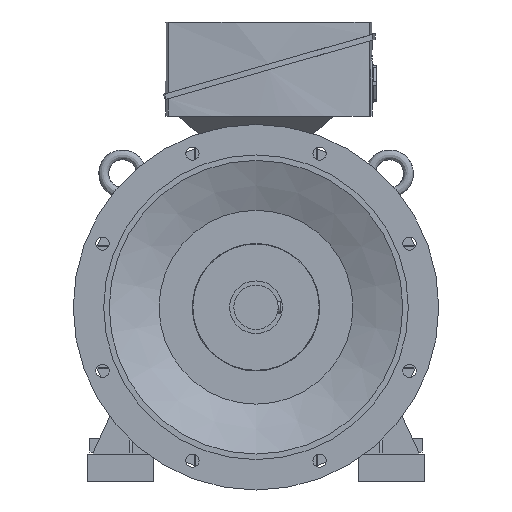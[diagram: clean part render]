
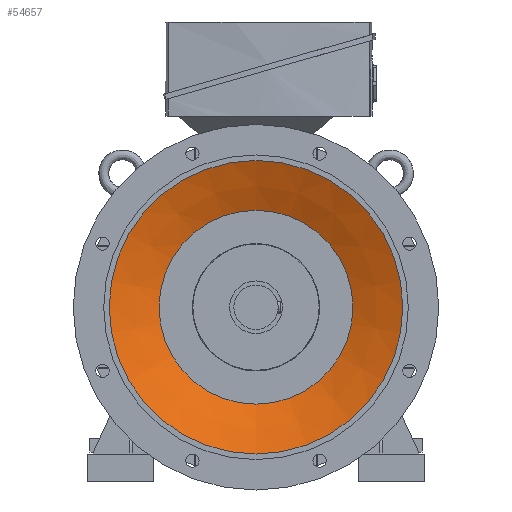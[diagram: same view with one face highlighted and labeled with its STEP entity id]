
A CAD part, left-side view. The second image highlights one B-rep face of the part: STEP entity #54657.
In plain terms, the highlighted conical face has half-angle 67.652 degrees and reference radius 265 mm.
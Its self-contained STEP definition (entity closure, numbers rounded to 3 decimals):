
#2951 = EDGE_CURVE ( 'NONE', #13011, #13011, #28997, .T. ) ;
#3205 = AXIS2_PLACEMENT_3D ( 'NONE', #30313, #30314, #30315 ) ;
#3285 = AXIS2_PLACEMENT_3D ( 'NONE', #35334, #35335, #35337 ) ;
#6656 = FACE_OUTER_BOUND ( 'NONE', #49268, .T. ) ;
#6660 = FACE_BOUND ( 'NONE', #49262, .T. ) ;
#6665 = CONICAL_SURFACE ( 'NONE', #53846, 265., 1.181 ) ;
#6976 = CARTESIAN_POINT ( 'NONE',  ( -104., 0., 0. ) ) ;
#6977 = DIRECTION ( 'NONE',  ( -1., 0., 0. ) ) ;
#6984 = DIRECTION ( 'NONE',  ( 0., 0., 1. ) ) ;
#11254 = CARTESIAN_POINT ( 'NONE',  ( -104., 0., 265. ) ) ;
#11256 = CARTESIAN_POINT ( 'NONE',  ( -67., 0., 175. ) ) ;
#13011 = VERTEX_POINT ( 'NONE', #11254 ) ;
#13013 = VERTEX_POINT ( 'NONE', #11256 ) ;
#13130 = EDGE_CURVE ( 'NONE', #13013, #13013, #29610, .T. ) ;
#28997 = CIRCLE ( 'NONE', #3205, 265. ) ;
#29610 = CIRCLE ( 'NONE', #3285, 175. ) ;
#30313 = CARTESIAN_POINT ( 'NONE',  ( -104., 0., 0. ) ) ;
#30314 = DIRECTION ( 'NONE',  ( -1., 0., 0. ) ) ;
#30315 = DIRECTION ( 'NONE',  ( 0., 0., 1. ) ) ;
#35334 = CARTESIAN_POINT ( 'NONE',  ( -67., 0., 0. ) ) ;
#35335 = DIRECTION ( 'NONE',  ( -1., 0., 0. ) ) ;
#35337 = DIRECTION ( 'NONE',  ( 0., 0., 1. ) ) ;
#49262 = EDGE_LOOP ( 'NONE', ( #55937 ) ) ;
#49268 = EDGE_LOOP ( 'NONE', ( #55936 ) ) ;
#53846 = AXIS2_PLACEMENT_3D ( 'NONE', #6976, #6977, #6984 ) ;
#54657 = ADVANCED_FACE ( 'NONE', ( #6656, #6660 ), #6665, .F. ) ;
#55936 = ORIENTED_EDGE ( 'NONE', *, *, #2951, .T. ) ;
#55937 = ORIENTED_EDGE ( 'NONE', *, *, #13130, .F. ) ;
